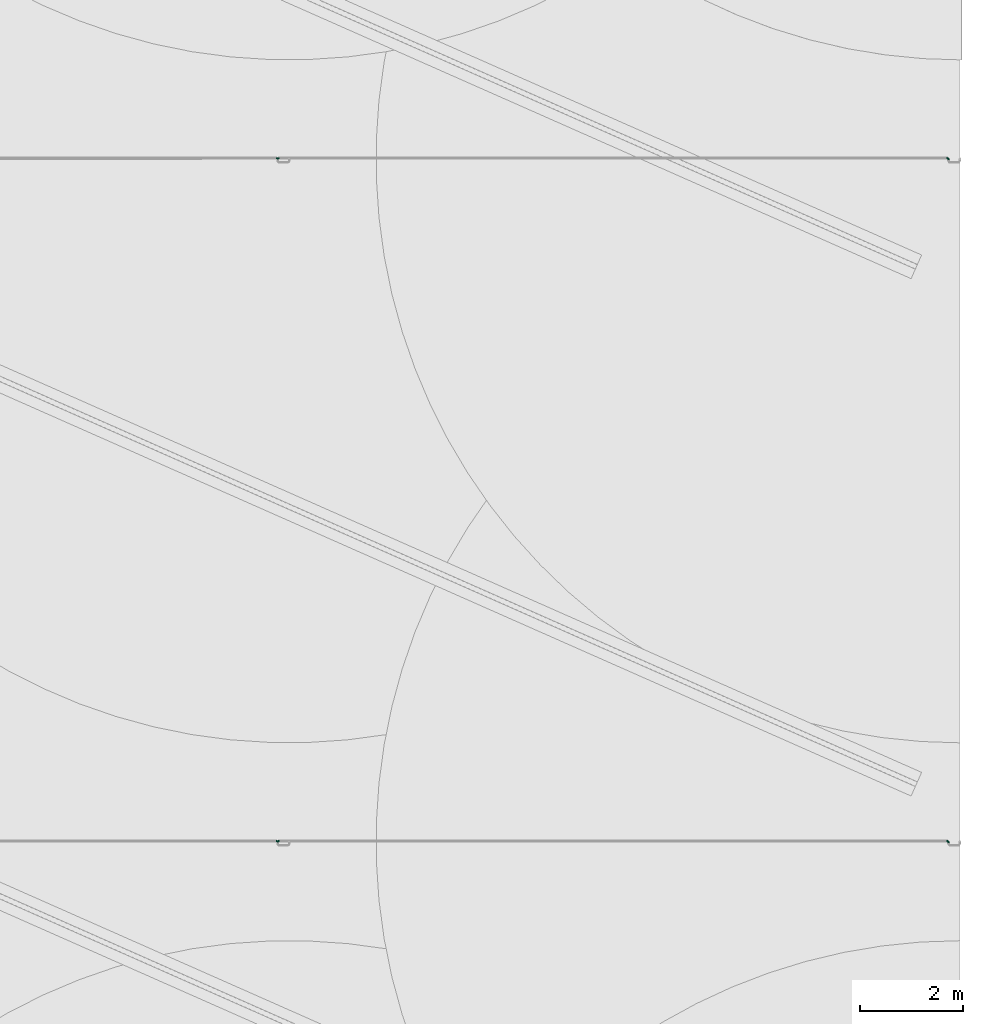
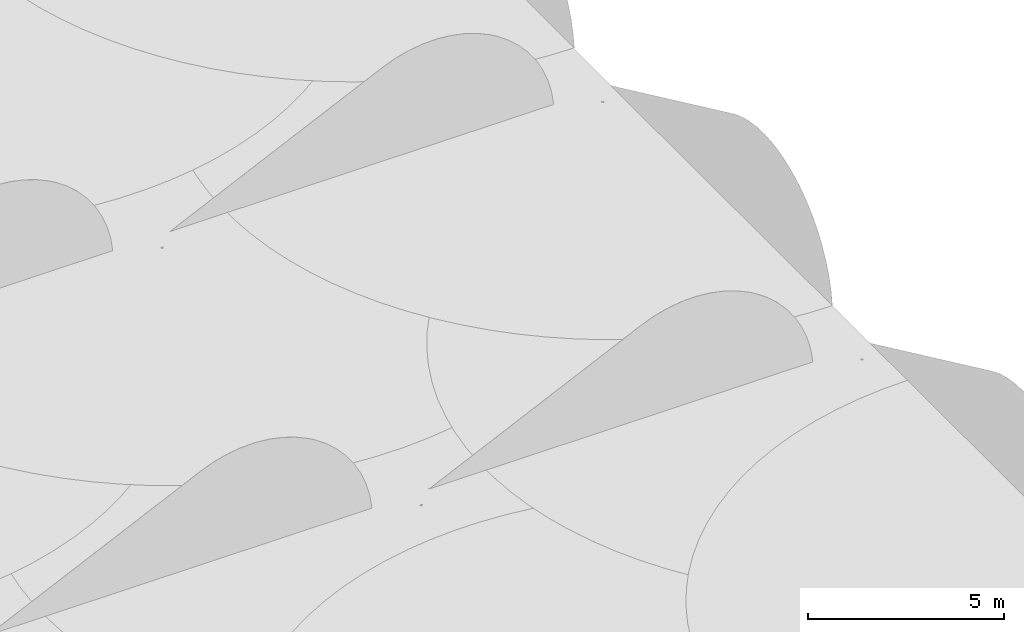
# One storey, part 158 of 166: 4 flow fittings.
"""IFC2X3 building model written with IfcOpenShell, lengths in metres."""

from ifc_helpers import new_model, entity, si_unit, converted_unit, direction, frame, origin, place, context, subcontext, project, spatial, faceted_brep, source, transform, mapped, material, type_object, type_shapes, element, save


model = new_model("IFC2X3")

# Units and contexts
model_context = context("Model", 3, precision=1e-05, world=origin(), true_north=direction((6.123233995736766e-17, 1.0)))
body_context = subcontext(model_context, "Body", "Model", "MODEL_VIEW")
ifc_project = project(units=[si_unit("LENGTHUNIT", "METRE"), converted_unit("PLANEANGLEUNIT", "DEGREE", entity("IfcPlaneAngleMeasure", 0.017453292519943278), si_unit("PLANEANGLEUNIT", "RADIAN"), dimensions=[0, 0, 0, 0, 0, 0, 0]), si_unit("AREAUNIT", "SQUARE_METRE")], contexts=[model_context])

# Site, building, storey
site_placement = place(None, origin())
site = spatial("IfcSite", under=ifc_project, at=site_placement, Name="Default", CompositionType="ELEMENT")
building_placement = place(site_placement, origin())
building = spatial("IfcBuilding", under=site, at=building_placement, Name="CASA DE ACOLHIDA PARA IDOSOS", CompositionType="ELEMENT")
storey_placement = place(building_placement, frame((0.0, 0.0, -1.7499999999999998)))
storey = spatial("IfcBuildingStorey", under=building, at=storey_placement, Name="IMPLANTAÇÃO DRENAGEM", CompositionType="ELEMENT", Elevation=-1.7499999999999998)

# Flow fittings
ifc_material = material(Name="PVC Branco")
pipe_fitting_type_1 = type_object("IfcPipeFittingType", Name="AF_Roscavel_Te_Reducao:Standard", PredefinedType="NOTDEFINED", material=ifc_material)
shared_shape_1 = source(origin(), body_context, "Body", "Brep", [
    faceted_brep([(-0.009400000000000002, 0.014040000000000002, 0.0), (-0.010499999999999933, 0.011611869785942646, -0.0063642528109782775), (-0.010500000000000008, 0.012355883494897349, -0.005006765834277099), (-0.010499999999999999, 0.0150999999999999, 0.0), (-0.009399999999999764, 0.008784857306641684, -0.006794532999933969), (-0.010499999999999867, 0.008123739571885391, -0.012728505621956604), (-0.009949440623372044, -0.009949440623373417, -0.010643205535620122), (-0.009399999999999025, -0.0019155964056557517, -0.012258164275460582), (-0.009399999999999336, -0.003706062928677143, -0.011820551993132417), (-0.009399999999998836, -0.006553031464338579, -0.011124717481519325), (-0.009399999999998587, -0.007976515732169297, -0.010776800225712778), (-0.009399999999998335, -0.009400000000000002, -0.010428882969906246), (-0.010499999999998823, -0.0025360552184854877, -0.011654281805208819), (-0.009399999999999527, 0.003529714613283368, -0.01358906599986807), (-0.010499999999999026, -0.0011881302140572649, -0.01179011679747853), (-0.01049999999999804, -0.010500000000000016, -0.010851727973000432), (-0.009949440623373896, -0.009949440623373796, 0.01064320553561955), (-0.009400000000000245, -0.009400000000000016, 0.010428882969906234), (-0.009400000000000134, -0.00657052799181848, 0.010641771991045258), (-0.009400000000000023, -0.0037410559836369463, 0.010854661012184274), (-0.00940000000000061, -0.0008331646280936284, 0.011073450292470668), (-0.009400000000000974, 0.007733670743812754, 0.011718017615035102), (-0.010500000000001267, 0.009299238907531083, 0.007344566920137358), (-0.010500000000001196, 0.003498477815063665, 0.014689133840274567), (-0.00940000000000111, 0.01088683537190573, 0.00585900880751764), (-0.010500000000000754, -0.002518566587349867, 0.013039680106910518), (-0.0105000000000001, -0.003500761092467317, 0.012770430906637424), (-0.010500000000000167, -0.010500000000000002, 0.01085172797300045), (-0.009399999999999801, 0.0019178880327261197, 0.011280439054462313), (-0.003273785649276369, -0.003273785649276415, 0.013652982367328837), (-0.0071620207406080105, -0.0071620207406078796, 0.011606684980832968), (0.00940000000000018, 0.0019178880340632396, 0.011280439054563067), (0.009400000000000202, 0.007733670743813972, 0.011718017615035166), (0.0, 0.0, 0.014039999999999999), (0.009400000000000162, -0.003741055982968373, 0.010854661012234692), (0.009400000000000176, -0.0008331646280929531, 0.011073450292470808), (0.006450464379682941, -0.006450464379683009, 0.012470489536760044), (0.00833239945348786, -0.008332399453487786, 0.01116785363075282), (0.009400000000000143, -0.009399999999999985, 0.010428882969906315), (0.009400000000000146, -0.00798526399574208, 0.010535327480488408), (0.009400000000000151, -0.006570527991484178, 0.010641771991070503), (0.009400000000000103, 0.01088683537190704, 0.005859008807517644), (0.009400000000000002, 0.014039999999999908, 0.0), (0.009399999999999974, 0.008784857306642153, -0.006794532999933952), (0.009399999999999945, 0.003529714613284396, -0.013589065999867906), (0.0, 0.0, -0.014039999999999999), (-0.006450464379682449, -0.006450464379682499, -0.012470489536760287), (-0.008332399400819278, -0.008332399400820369, -0.011167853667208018), (0.009400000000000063, -0.006553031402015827, -0.011124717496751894), (0.009400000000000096, -0.009399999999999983, -0.010428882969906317), (0.0071620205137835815, -0.0071620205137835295, -0.011606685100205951), (0.0032737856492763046, -0.0032737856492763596, -0.013652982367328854), (0.009400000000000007, -0.0019155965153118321, -0.012258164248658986), (0.009400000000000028, -0.0037060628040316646, -0.01182055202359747), (0.010499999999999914, 0.008123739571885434, 0.012728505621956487), (0.010499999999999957, 0.011611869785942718, 0.006364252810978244), (0.010500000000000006, -0.002536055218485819, 0.01165428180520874), (0.010499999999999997, -0.001188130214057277, 0.011790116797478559), (0.010499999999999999, 0.0151, 0.0), (0.009949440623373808, -0.00994944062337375, 0.010643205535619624), (0.010499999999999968, 0.012355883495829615, 0.005006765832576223), (0.010500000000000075, -0.01049999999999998, 0.010851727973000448), (0.010500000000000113, -0.002518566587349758, -0.013039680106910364), (0.00994944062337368, -0.009949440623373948, -0.010643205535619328), (0.010500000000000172, 0.0034984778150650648, -0.014689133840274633), (0.010500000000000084, 0.009299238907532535, -0.007344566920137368), (0.010500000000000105, -0.0035007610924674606, -0.012770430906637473), (0.010500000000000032, -0.010499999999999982, -0.010851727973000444), (-0.032, -0.007550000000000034, -0.013076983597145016), (-0.032, -0.0125, 0.0), (-0.032, -0.006250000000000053, -0.010825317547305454), (-0.032, -0.011325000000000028, -0.00653849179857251), (-0.032, 0.0062499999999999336, -0.010825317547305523), (-0.032, 0.0, -0.013076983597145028), (-0.032, -0.015100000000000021, 0.0), (-0.032, -0.006250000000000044, 0.010825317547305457), (-0.032, -0.011324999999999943, 0.006538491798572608), (-0.032, -0.00754999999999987, 0.01307698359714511), (-0.032, 0.006249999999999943, 0.010825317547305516), (-0.032, 0.0, 0.013076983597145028), (-0.032, 0.007550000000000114, 0.013076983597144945), (-0.032, 0.012256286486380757, 0.004925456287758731), (-0.032, 0.015099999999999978, 0.0), (-0.032, 0.0125, 0.0), (-0.032, 0.011324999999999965, -0.006538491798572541), (-0.032, 0.0075499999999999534, -0.01307698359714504), (-0.013760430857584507, -0.013760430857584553, 0.006217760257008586), (-0.015099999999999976, -0.015100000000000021, 0.0), (0.032000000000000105, -0.01132500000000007, 0.0065384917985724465), (0.015100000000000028, -0.0151, 0.0), (0.032000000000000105, -0.0151, 0.0), (-0.013760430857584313, -0.013760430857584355, -0.006217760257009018), (0.032000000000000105, -0.011324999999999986, -0.0065384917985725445), (0.032000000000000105, 0.007550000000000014, -0.013076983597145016), (0.032000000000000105, 0.0125, 0.0), (0.032000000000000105, 0.006250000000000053, -0.010825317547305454), (0.032000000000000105, 0.012256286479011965, -0.004925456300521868), (0.032000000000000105, -0.0062499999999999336, -0.010825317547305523), (0.032000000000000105, 0.0, -0.013076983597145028), (0.032000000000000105, 0.0151, 0.0), (0.032000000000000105, 0.006250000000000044, 0.010825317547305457), (0.032000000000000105, 0.011324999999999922, 0.006538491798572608), (0.032000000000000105, 0.00754999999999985, 0.01307698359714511), (0.032000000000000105, -0.006249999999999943, 0.010825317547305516), (0.032000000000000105, 0.0, 0.013076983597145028), (0.032000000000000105, -0.007550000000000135, 0.013076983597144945), (0.032000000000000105, -0.0125, 0.0), (0.032000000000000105, -0.007549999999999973, -0.01307698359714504), (0.013760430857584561, -0.013760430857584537, 0.00621776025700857), (0.013760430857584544, -0.013760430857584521, -0.006217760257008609), (-0.01589999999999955, -0.0125, 0.0), (-0.01589999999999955, -0.006250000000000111, 0.010825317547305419), (-0.01589999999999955, 0.006249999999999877, 0.010825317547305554), (-0.01589999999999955, 0.0125, 0.0), (-0.01589999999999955, 0.006250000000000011, -0.010825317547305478), (-0.01589999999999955, -0.0062499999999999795, -0.010825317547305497), (0.01590000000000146, -0.012499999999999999, 0.0), (0.015900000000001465, -0.006249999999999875, 0.010825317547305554), (0.015900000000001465, 0.006250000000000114, 0.010825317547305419), (0.006250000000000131, -0.031999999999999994, 0.010825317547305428), (-0.006249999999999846, -0.03200000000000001, 0.01082531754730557), (-0.006249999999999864, -0.015900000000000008, 0.010825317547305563), (0.006250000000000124, -0.015900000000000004, 0.010825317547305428), (0.015900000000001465, 0.012500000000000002, 0.0), (0.015900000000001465, 0.006249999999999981, -0.010825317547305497), (0.015900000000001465, -0.006250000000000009, -0.010825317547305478), (-0.0062499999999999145, -0.03200000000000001, -0.010825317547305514), (0.006250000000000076, -0.031999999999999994, -0.010825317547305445), (0.006249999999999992, -0.015900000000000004, -0.01082531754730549), (-0.006249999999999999, -0.015900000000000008, -0.010825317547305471), (0.012500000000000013, -0.0159, 0.0), (-0.012499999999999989, -0.01590000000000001, 0.0), (0.012500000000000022, -0.03199999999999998, 0.0), (-0.01249999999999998, -0.03200000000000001, 0.0), (-0.005668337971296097, -0.00940000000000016, -0.01186229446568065), (9.767713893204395e-07, -0.009400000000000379, -0.014039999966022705), (0.005668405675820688, -0.009399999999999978, 0.011862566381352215), (9.767713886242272e-07, -0.00939999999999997, 0.014039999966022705), (0.0016561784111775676, -0.010500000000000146, 0.015008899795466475), (-0.0025917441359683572, -0.010500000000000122, 0.01355619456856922), (-0.001654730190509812, -0.010499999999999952, -0.015009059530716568), (0.0025918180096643, -0.010500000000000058, -0.013556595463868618), (0.007550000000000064, -0.03199999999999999, -0.013076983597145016), (0.011325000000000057, -0.03199999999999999, -0.00653849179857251), (0.0, -0.032, -0.013076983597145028), (0.015100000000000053, -0.03199999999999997, 0.0), (0.011324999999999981, -0.03199999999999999, 0.006538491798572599), (0.007549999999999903, -0.03199999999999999, 0.01307698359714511), (0.0, -0.032, 0.013076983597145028), (-0.007550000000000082, -0.032000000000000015, 0.013076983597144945), (-0.011325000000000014, -0.03200000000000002, 0.006538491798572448), (-0.015099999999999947, -0.03200000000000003, 0.0), (-0.011324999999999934, -0.03200000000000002, -0.006538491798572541), (-0.0075499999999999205, -0.032000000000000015, -0.01307698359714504)], [[[0, 1, 2, 3]], [[4, 5, 1]], [[6, 7, 8, 9, 10, 11]], [[12, 7, 6]], [[13, 12, 14, 5]], [[13, 7, 12]], [[0, 4, 1]], [[5, 4, 13]], [[6, 15, 12]], [[16, 17, 18, 19, 20]], [[21, 22, 23]], [[3, 24, 0]], [[3, 22, 24]], [[25, 20, 23]], [[22, 21, 24]], [[16, 25, 26, 27]], [[20, 25, 16]], [[23, 20, 28, 21]], [[29, 28, 20, 19, 18, 17, 30]], [[31, 32, 33, 34, 35]], [[33, 28, 29]], [[36, 37, 38, 39, 40, 34]], [[21, 32, 41, 42, 0, 24]], [[32, 21, 33]], [[21, 28, 33]], [[36, 34, 33]], [[43, 44, 45]], [[45, 13, 4]], [[9, 8, 46, 47, 11, 10]], [[43, 4, 0, 42]], [[48, 49, 50, 51, 44, 52, 53]], [[45, 8, 7, 13]], [[46, 8, 45]], [[51, 45, 44]], [[4, 43, 45]], [[32, 54, 55]], [[55, 41, 32]], [[35, 56, 57, 54]], [[42, 41, 58]], [[59, 35, 34, 40, 39, 38]], [[54, 32, 31, 35]], [[41, 55, 60, 58]], [[59, 56, 35]], [[59, 61, 56]], [[52, 62, 63]], [[44, 64, 52]], [[58, 43, 42]], [[58, 65, 43]], [[63, 49, 48, 53, 52]], [[65, 44, 43]], [[63, 62, 66, 67]], [[44, 65, 64]], [[62, 52, 64]], [[68, 69, 70]], [[69, 68, 71]], [[68, 70, 72]], [[72, 73, 68]], [[69, 71, 74]], [[75, 69, 74]], [[75, 74, 76]], [[75, 76, 77]], [[75, 77, 78]], [[78, 77, 79]], [[78, 79, 80]], [[78, 80, 81]], [[78, 81, 82]], [[82, 83, 78]], [[83, 82, 84]], [[83, 84, 85]], [[85, 72, 83]], [[72, 85, 73]], [[22, 80, 23]], [[23, 80, 79]], [[81, 22, 3]], [[77, 27, 26]], [[80, 22, 81]], [[86, 76, 87]], [[3, 82, 81]], [[26, 79, 77]], [[86, 77, 76]], [[74, 87, 76]], [[88, 89, 90]], [[79, 26, 25, 23]], [[86, 27, 77]], [[82, 3, 2]], [[91, 71, 68]], [[87, 71, 91]], [[15, 91, 68]], [[71, 87, 74]], [[90, 89, 92]], [[68, 14, 12, 15]], [[73, 85, 5]], [[5, 85, 84]], [[84, 82, 2]], [[73, 5, 14]], [[14, 68, 73]], [[84, 2, 1, 5]], [[93, 94, 95]], [[94, 93, 96]], [[93, 95, 97]], [[97, 98, 93]], [[94, 96, 99]], [[100, 94, 99]], [[100, 99, 101]], [[100, 101, 102]], [[100, 102, 103]], [[103, 102, 104]], [[103, 104, 105]], [[103, 105, 88]], [[103, 88, 90]], [[90, 106, 103]], [[106, 90, 92]], [[106, 92, 107]], [[107, 97, 106]], [[97, 107, 98]], [[99, 58, 60]], [[108, 88, 105]], [[89, 88, 108]], [[61, 108, 105]], [[105, 57, 56, 61]], [[104, 102, 54]], [[54, 102, 101]], [[101, 99, 60]], [[104, 54, 57]], [[57, 105, 104]], [[101, 60, 55, 54]], [[65, 93, 64]], [[64, 93, 98]], [[96, 65, 58]], [[107, 67, 66]], [[93, 65, 96]], [[109, 92, 89]], [[58, 99, 96]], [[66, 98, 107]], [[109, 107, 92]], [[98, 66, 62, 64]], [[109, 67, 107]], [[110, 111, 112, 113, 114, 115]], [[69, 75, 111, 110]], [[103, 106, 116, 117]], [[75, 78, 112, 111]], [[100, 103, 117, 118]], [[119, 120, 121, 122]], [[78, 83, 113, 112]], [[94, 100, 118, 123]], [[83, 72, 114, 113]], [[95, 94, 123, 124]], [[72, 70, 115, 114]], [[97, 95, 124, 125]], [[126, 127, 128, 129]], [[70, 69, 110, 115]], [[106, 97, 125, 116]], [[123, 118, 117, 116, 125, 124]], [[130, 122, 121, 131, 129, 128]], [[132, 119, 122, 130]], [[120, 133, 131, 121]], [[133, 126, 129, 131]], [[127, 132, 130, 128]], [[46, 45, 51]], [[134, 11, 47, 46, 135]], [[135, 51, 50, 49]], [[51, 135, 46]], [[136, 38, 37, 36, 137]], [[137, 36, 29]], [[137, 29, 30, 17]], [[33, 29, 36]], [[138, 59, 137]], [[16, 139, 137]], [[138, 61, 59]], [[59, 38, 136, 137]], [[17, 16, 137]], [[137, 139, 138]], [[16, 27, 139]], [[140, 6, 135]], [[63, 141, 135]], [[140, 15, 6]], [[6, 11, 134, 135]], [[49, 63, 135]], [[135, 141, 140]], [[63, 67, 141]], [[142, 132, 127]], [[132, 142, 143]], [[142, 127, 126]], [[126, 144, 142]], [[132, 143, 145]], [[119, 132, 145]], [[119, 145, 146]], [[119, 146, 147]], [[119, 147, 120]], [[120, 147, 148]], [[120, 148, 149]], [[120, 149, 150]], [[120, 150, 151]], [[151, 133, 120]], [[133, 151, 152]], [[133, 152, 153]], [[153, 126, 133]], [[126, 153, 144]], [[87, 151, 150]], [[87, 150, 86]], [[149, 86, 150]], [[86, 149, 27]], [[149, 138, 139, 27]], [[145, 89, 146]], [[89, 108, 146]], [[108, 147, 146]], [[138, 149, 148, 147]], [[138, 147, 61]], [[147, 108, 61]], [[89, 145, 143]], [[89, 143, 109]], [[142, 109, 143]], [[109, 142, 67]], [[142, 140, 141, 67]], [[151, 87, 152]], [[87, 91, 152]], [[91, 153, 152]], [[140, 142, 144, 153]], [[140, 153, 15]], [[153, 91, 15]]]),
])
type_shapes(pipe_fitting_type_1, [shared_shape_1])
for number, where, z_axis, x_axis, name in (
    (1, (33.009051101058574, 36.05494207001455, -0.19999999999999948), (0.0, 0.0, -1.0), (-1.0, 0.0, 0.0), "AF_Roscavel_Te_Reducao:Standard"),
    (2, (33.00905110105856, 22.85494207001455, -0.19999999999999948), (0.0, 0.0, -1.0), (-1.0, 0.0, 0.0), "AF_Roscavel_Te_Reducao:Standard"),
):
    element("IfcFlowFitting", number, at=place(storey_placement, frame(where, z_axis=z_axis, x_axis=x_axis)), inside=storey, type_object=pipe_fitting_type_1, material=ifc_material, Name=name, ObjectType="AF_Roscavel_Te_Reducao:Standard", context=body_context, shape_type="MappedRepresentation", body=[
        mapped(shared_shape_1, transform((0.0, 0.0, 0.0), scale=1.0)),
    ])
pipe_fitting_type_2 = type_object("IfcPipeFittingType", Name="AF_Roscavel _Joelho 45_90:Standard", PredefinedType="NOTDEFINED", material=ifc_material)
shared_shape_2 = source(origin(), body_context, "Body", "Brep", [
    faceted_brep([(-0.01679999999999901, -0.012616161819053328, -0.010587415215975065), (-0.00016499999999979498, -0.01201266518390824, 0.0), (-0.01679999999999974, -0.016469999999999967, 0.0), (0.008619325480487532, 0.003305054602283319, -0.01130283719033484), (-0.0019587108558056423, -0.007478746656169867, -0.011636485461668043), (-0.002997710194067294, 0.004547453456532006, -0.01638652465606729), (0.008606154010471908, 0.003179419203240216, 0.0), (-0.01679999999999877, 0.0028622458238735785, -0.01621938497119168), (-0.01679999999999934, 0.012618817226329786, -0.010584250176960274), (-0.01656665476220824, 0.016566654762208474, 0.0), (-0.0167999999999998, 0.016470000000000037, 0.0), (-0.016799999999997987, -0.004876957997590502, -0.013403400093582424), (0.002858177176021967, 0.016799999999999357, -0.016220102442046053), (0.012616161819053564, 0.016799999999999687, -0.010587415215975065), (-0.01261881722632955, 0.01679999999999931, -0.010584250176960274), (-0.004880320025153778, 0.016799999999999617, -0.013402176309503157), (-0.0164699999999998, 0.016800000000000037, 0.0), (0.016470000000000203, 0.01679999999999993, 0.0), (0.005872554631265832, 0.002004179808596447, 0.012873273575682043), (0.012616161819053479, 0.01679999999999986, 0.010587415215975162), (0.004876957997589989, 0.016800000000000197, 0.013403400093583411), (-0.0028622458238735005, 0.01679999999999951, 0.01621938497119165), (-0.003427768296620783, -0.008647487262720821, 0.011337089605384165), (-0.006437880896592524, 0.004263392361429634, 0.01646129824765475), (-0.016799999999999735, -0.012616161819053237, 0.01058741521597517), (-0.01679999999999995, -0.0028581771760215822, 0.016220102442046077), (-0.01680000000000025, 0.012618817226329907, 0.010584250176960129), (-0.012618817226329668, 0.016799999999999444, 0.01058425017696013), (-0.016800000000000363, 0.004880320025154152, 0.01340217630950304), (-0.0357999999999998, -0.004736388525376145, -0.017676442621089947), (-0.0357999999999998, -0.003235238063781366, -0.012074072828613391), (-0.0357999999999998, 0.0032352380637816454, -0.01207407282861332), (-0.0357999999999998, -0.015848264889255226, -0.00914999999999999), (-0.0357999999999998, 0.004736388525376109, -0.01767644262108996), (-0.0357999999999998, -0.0108253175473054, -0.0062500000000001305), (-0.0357999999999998, -0.012499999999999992, 0.0), (-0.0357999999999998, -0.018299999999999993, 0.0), (-0.0357999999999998, -0.010825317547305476, 0.006249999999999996), (-0.0357999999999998, -0.01584826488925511, 0.009150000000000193), (-0.0357999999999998, -0.003235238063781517, 0.01207407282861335), (-0.0357999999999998, -0.004736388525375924, 0.017676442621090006), (-0.0357999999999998, 0.003235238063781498, 0.012074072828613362), (-0.0357999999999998, 0.004736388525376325, 0.017676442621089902), (-0.0357999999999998, 0.010825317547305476, 0.006250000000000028), (-0.0357999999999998, 0.015848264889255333, 0.009149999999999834), (-0.0357999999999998, 0.01830000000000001, 0.0), (-0.0357999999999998, 0.01250000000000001, 0.0), (-0.0357999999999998, 0.015848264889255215, -0.009150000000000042), (-0.0357999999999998, 0.01082531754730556, -0.006249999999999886), (-0.017899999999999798, 0.01082531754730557, -0.006249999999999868), (-0.017899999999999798, 0.01250000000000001, 0.0), (-0.017899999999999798, 0.0032352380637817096, -0.012074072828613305), (-0.017899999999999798, -0.003235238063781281, -0.012074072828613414), (0.0032352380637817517, 0.03580000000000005, -0.01207407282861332), (-0.00323523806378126, 0.03580000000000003, -0.012074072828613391), (-0.0032352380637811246, 0.017899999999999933, -0.012074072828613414), (0.0032352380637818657, 0.017900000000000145, -0.012074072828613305), (-0.017899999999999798, -0.01082531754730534, -0.006250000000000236), (-0.017899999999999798, -0.012499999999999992, 0.0), (-0.017899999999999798, -0.010825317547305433, 0.006250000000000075), (-0.017899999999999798, -0.003235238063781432, 0.012074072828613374), (-0.017899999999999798, 0.003235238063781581, 0.012074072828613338), (-0.003235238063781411, 0.03580000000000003, 0.01207407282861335), (0.0032352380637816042, 0.03580000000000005, 0.012074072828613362), (0.0032352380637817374, 0.017900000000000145, 0.012074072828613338), (-0.0032352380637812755, 0.017899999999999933, 0.012074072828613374), (-0.017899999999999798, 0.010825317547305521, 0.006249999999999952), (-0.01829999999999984, 0.01830000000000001, 0.0), (-0.018198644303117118, 0.018198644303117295, 0.0019233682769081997), (-0.017900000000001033, 0.01789999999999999, 0.0038052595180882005), (-0.01789999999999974, 0.011924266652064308, 0.013881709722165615), (-0.017899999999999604, 0.001061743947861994, 0.01826917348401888), (-0.01789999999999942, -0.014552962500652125, 0.011095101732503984), (-0.017900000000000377, -0.0067456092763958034, 0.014682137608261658), (-0.017899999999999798, -0.018299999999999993, 0.0), (-0.017899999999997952, -0.014552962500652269, -0.011095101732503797), (-0.01789999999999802, -0.004841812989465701, -0.017647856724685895), (-0.017899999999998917, 0.011924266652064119, -0.013881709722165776), (-0.018198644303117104, 0.018198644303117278, -0.0019233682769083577), (-0.017899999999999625, 0.017899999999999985, -0.0038052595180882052), (-0.0178999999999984, 0.0035412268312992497, -0.01576478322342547), (-0.01729726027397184, 0.017297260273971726, 0.0), (-0.01746011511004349, 0.017460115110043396, -0.0019456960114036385), (-0.017460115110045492, 0.017460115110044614, 0.0019456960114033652), (-0.004736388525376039, 0.035800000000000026, -0.017676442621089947), (-0.01584826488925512, 0.03579999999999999, -0.00914999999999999), (0.004736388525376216, 0.035800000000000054, -0.01767644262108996), (-0.010825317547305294, 0.035800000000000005, -0.0062500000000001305), (-0.012499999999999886, 0.035800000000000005, 0.0), (-0.01829999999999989, 0.035799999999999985, 0.0), (-0.010825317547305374, 0.035800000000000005, 0.006249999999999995), (-0.015848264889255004, 0.03579999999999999, 0.009150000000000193), (-0.004736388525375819, 0.035800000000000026, 0.017676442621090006), (0.004736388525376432, 0.035800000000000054, 0.017676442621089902), (0.010825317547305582, 0.03580000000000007, 0.006250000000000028), (0.01584826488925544, 0.03580000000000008, 0.009149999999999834), (0.018300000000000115, 0.03580000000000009, 0.0), (0.012500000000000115, 0.035800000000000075, 0.0), (0.01584826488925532, 0.03580000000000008, -0.009150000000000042), (0.010825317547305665, 0.03580000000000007, -0.006249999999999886), (0.018300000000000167, 0.01790000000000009, 0.0), (0.014552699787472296, 0.01790000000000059, 0.011095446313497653), (0.004841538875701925, 0.017900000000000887, 0.01764793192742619), (-0.011924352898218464, 0.01790000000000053, 0.013881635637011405), (-0.00354140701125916, 0.017900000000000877, 0.015764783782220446), (-0.011924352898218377, 0.017899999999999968, -0.013881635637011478), (-0.0010619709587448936, 0.017900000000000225, -0.018269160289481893), (0.01455269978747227, 0.017900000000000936, -0.011095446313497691), (0.006745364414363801, 0.017899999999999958, -0.014682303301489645), (0.010825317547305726, 0.01790000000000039, -0.006249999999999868), (0.012500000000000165, 0.017900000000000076, 0.0), (-0.010825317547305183, 0.017899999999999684, -0.006250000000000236), (-0.012499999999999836, 0.01789999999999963, 0.0), (-0.010825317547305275, 0.017899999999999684, 0.006250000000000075), (0.010825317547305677, 0.01790000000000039, 0.006249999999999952)], [[[0, 1, 2]], [[3, 4, 5]], [[4, 3, 6]], [[7, 8, 5]], [[9, 8, 10]], [[4, 0, 11, 7]], [[12, 13, 3]], [[4, 6, 1]], [[6, 3, 13]], [[14, 5, 8]], [[4, 1, 0]], [[5, 14, 15, 12]], [[16, 14, 9]], [[14, 8, 9]], [[12, 3, 5]], [[5, 4, 7]], [[17, 6, 13]], [[18, 19, 20, 21]], [[6, 18, 1]], [[22, 1, 18]], [[23, 18, 21]], [[1, 24, 2]], [[25, 22, 23]], [[22, 24, 1]], [[9, 10, 26]], [[27, 16, 9]], [[26, 23, 27]], [[6, 17, 19]], [[27, 23, 21]], [[22, 25, 24]], [[23, 22, 18]], [[23, 26, 28, 25]], [[18, 6, 19]], [[26, 27, 9]], [[29, 30, 31]], [[30, 29, 32]], [[31, 33, 29]], [[32, 34, 30]], [[32, 35, 34]], [[35, 32, 36]], [[37, 35, 36]], [[37, 36, 38]], [[38, 39, 37]], [[38, 40, 39]], [[39, 40, 41]], [[42, 41, 40]], [[42, 43, 41]], [[43, 42, 44]], [[45, 43, 44]], [[46, 43, 45]], [[47, 46, 45]], [[47, 48, 46]], [[48, 47, 33]], [[33, 31, 48]], [[49, 50, 46, 48]], [[51, 49, 48, 31]], [[31, 30, 52, 51]], [[53, 54, 55, 56]], [[57, 52, 30, 34]], [[58, 57, 34, 35]], [[59, 58, 35, 37]], [[60, 59, 37, 39]], [[39, 41, 61, 60]], [[62, 63, 64, 65]], [[66, 61, 41, 43]], [[50, 66, 43, 46]], [[67, 45, 68]], [[68, 45, 44]], [[44, 69, 68]], [[69, 44, 70]], [[44, 42, 70]], [[71, 42, 40]], [[72, 40, 38]], [[40, 72, 73, 71]], [[74, 72, 38]], [[36, 74, 38]], [[42, 71, 70]], [[74, 36, 32]], [[75, 32, 29]], [[32, 75, 74]], [[75, 29, 76]], [[29, 33, 76]], [[77, 33, 47]], [[78, 47, 45]], [[77, 47, 79]], [[79, 47, 78]], [[45, 67, 78]], [[33, 77, 80, 76]], [[59, 60, 61, 66, 50, 49, 51, 52, 57, 58]], [[81, 10, 8]], [[81, 8, 82]], [[82, 77, 79]], [[77, 82, 8]], [[7, 76, 80, 77]], [[0, 75, 11]], [[75, 0, 2]], [[7, 11, 76]], [[11, 75, 76]], [[74, 75, 2]], [[7, 77, 8]], [[73, 24, 25]], [[2, 24, 72]], [[72, 74, 2]], [[24, 73, 72]], [[71, 25, 28]], [[70, 28, 26]], [[26, 10, 81]], [[26, 81, 83]], [[70, 83, 69]], [[83, 70, 26]], [[25, 71, 73]], [[71, 28, 70]], [[84, 54, 53]], [[54, 84, 85]], [[53, 86, 84]], [[85, 87, 54]], [[85, 88, 87]], [[88, 85, 89]], [[90, 88, 89]], [[90, 89, 91]], [[91, 62, 90]], [[91, 92, 62]], [[62, 92, 63]], [[93, 63, 92]], [[93, 94, 63]], [[94, 93, 95]], [[96, 94, 95]], [[97, 94, 96]], [[98, 97, 96]], [[98, 99, 97]], [[99, 98, 86]], [[86, 53, 99]], [[100, 96, 95]], [[101, 95, 93]], [[95, 101, 100]], [[101, 93, 102]], [[93, 92, 102]], [[103, 92, 91]], [[68, 91, 89]], [[103, 91, 69]], [[69, 91, 68]], [[89, 67, 68]], [[92, 103, 104, 102]], [[67, 89, 78]], [[78, 89, 85]], [[85, 79, 78]], [[79, 85, 105]], [[85, 84, 105]], [[106, 84, 86]], [[107, 86, 98]], [[86, 107, 108, 106]], [[100, 107, 98]], [[96, 100, 98]], [[84, 106, 105]], [[109, 110, 97, 99]], [[56, 109, 99, 53]], [[111, 55, 54, 87]], [[112, 111, 87, 88]], [[113, 112, 88, 90]], [[65, 113, 90, 62]], [[114, 64, 63, 94]], [[110, 114, 94, 97]], [[113, 65, 64, 114, 110, 109, 56, 55, 111, 112]], [[108, 13, 12]], [[17, 13, 107]], [[107, 100, 17]], [[13, 108, 107]], [[106, 12, 15]], [[105, 15, 14]], [[14, 16, 81]], [[14, 81, 82]], [[105, 82, 79]], [[82, 105, 14]], [[12, 106, 108]], [[106, 15, 105]], [[81, 16, 27]], [[81, 27, 83]], [[83, 103, 69]], [[103, 83, 27]], [[21, 102, 104, 103]], [[19, 101, 20]], [[101, 19, 17]], [[21, 20, 102]], [[20, 101, 102]], [[100, 101, 17]], [[21, 103, 27]]]),
])
type_shapes(pipe_fitting_type_2, [shared_shape_2])
for number, where, z_axis, x_axis, name in (
    (3, (45.97645110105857, 36.054942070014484, -0.19999999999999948), (0.0, 0.0, 1.0), (0.0, 1.0, 0.0), "AF_Roscavel _Joelho 45_90:Standard"),
    (4, (45.97645110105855, 22.854942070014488, -0.19999999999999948), (0.0, 0.0, 1.0), (0.0, 1.0, 0.0), "AF_Roscavel _Joelho 45_90:Standard"),
):
    element("IfcFlowFitting", number, at=place(storey_placement, frame(where, z_axis=z_axis, x_axis=x_axis)), inside=storey, type_object=pipe_fitting_type_2, material=ifc_material, Name=name, ObjectType="AF_Roscavel _Joelho 45_90:Standard", context=body_context, shape_type="MappedRepresentation", body=[
        mapped(shared_shape_2, transform((0.0, 0.0, 0.0), scale=1.0)),
    ])

save(model, "model.ifc")
